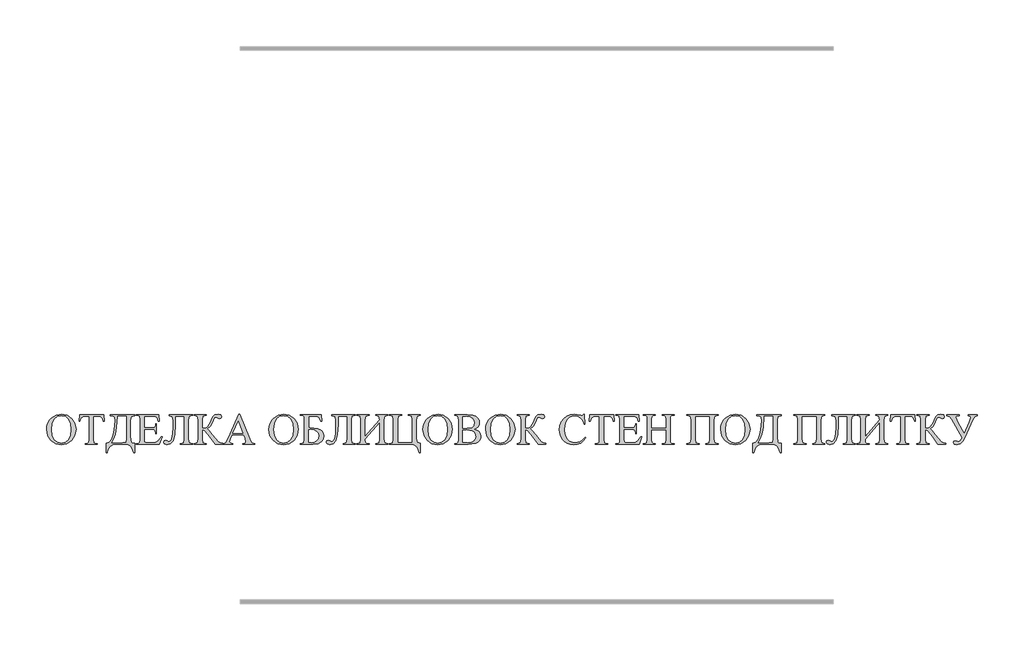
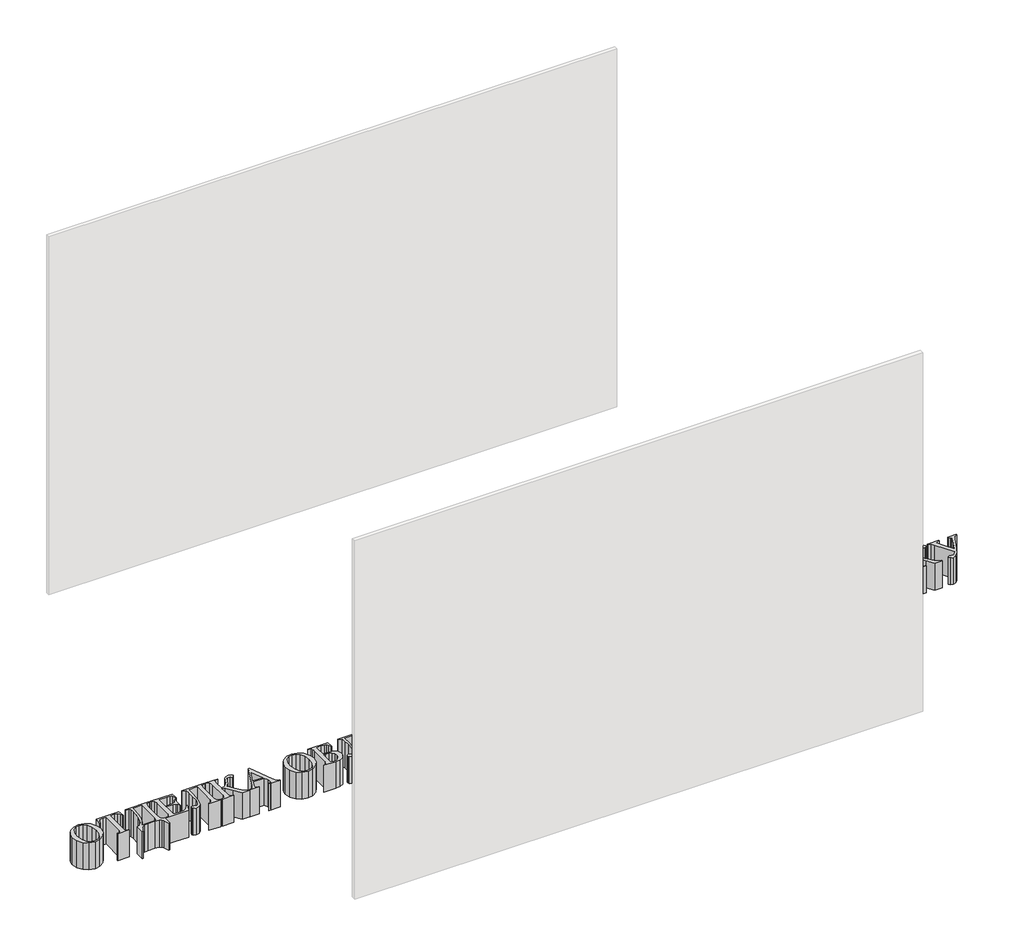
# One storey, part 12 of 17: 1 proxy.
"""IFC4 building model written with IfcOpenShell, lengths in millimetres."""

from ifc_helpers import new_model, si_unit, origin, origin_with_axes, place, context, project, spatial, polyline, outline, extrude, element, save

model = new_model("IFC4")

# Units and contexts
model_context = context("Model", 3, world=origin())
ifc_project = project(units=[si_unit("LENGTHUNIT", "METRE", prefix="MILLI")], contexts=[model_context])

# Site, building, storey
site = spatial("IfcSite", under=ifc_project)
building = spatial("IfcBuilding", under=site)
storey = spatial("IfcBuildingStorey", under=building, Name="Уровень 1", Elevation=0.0)

# Proxy
placement = place(None, origin())
element("IfcBuildingElementProxy", 1, Name="SG_Текст 2", ObjectType="SG_Текст 2", at=placement, inside=storey, context=model_context, shape_type="SweptSolid", body=[
    extrude(outline(polyline([(-694.4542029, 15019.3850863), (-666.748358, 15013.9243699), (-643.0048009, 14997.5422205), (-626.682991, 14972.994138), (-621.2423877, 14943.0356218), (-626.7232173, 14912.2273257), (-643.165706, 14887.1412168), (-667.3919784, 14870.4724553), (-696.2241589, 14864.9162014), (-725.2021597, 14870.3366916), (-749.1418199, 14886.5981621), (-765.2071873, 14911.4680548), (-770.5623098, 14942.7138117), (-769.0161124, 14959.485653), (-764.3775204, 14974.6434152), (-756.6465337, 14988.1870981), (-745.8231524, 15000.116702), (-722.2405004, 15014.5679902), (-694.4542029, 15019.3850863)]), holes=[polyline([(-696.5861954, 15011.6616421), (-715.0299411, 15007.9809382), (-729.4108334, 14996.9388265), (-740.9658301, 14974.3417181), (-744.8174956, 14943.2367532), (-740.8250381, 14911.1965275), (-728.8476656, 14887.4831401), (-714.6176218, 14876.3505193), (-696.4655165, 14872.6396457), (-676.8552089, 14876.7024992), (-660.9859445, 14888.8910596), (-650.4868875, 14909.8388908), (-646.9872019, 14940.1795565), (-650.8388674, 14973.3260047), (-662.3938641, 14996.8181476), (-677.1166797, 15007.9507685), (-696.5861954, 15011.6616421)])]), origin_with_axes(), (0.0, 0.0, 1.0), 150.0),
    extrude(outline(polyline([(-482.2203913, 15016.8106049), (-479.6459099, 14983.3423465), (-483.8294422, 14983.3423465), (-487.2486753, 14996.6170163), (-496.6012836, 15006.0500771), (-512.028059, 15009.0871606), (-533.7100196, 15009.0871606), (-533.7100196, 14893.235497), (-530.813728, 14874.9727695), (-518.1826786, 14870.0651643), (-513.1141683, 14870.0651643), (-513.1141683, 14867.4906828), (-574.9017223, 14867.4906828), (-574.9017223, 14870.0651643), (-569.7527594, 14870.0651643), (-561.8784667, 14871.583706), (-556.679221, 14876.1393313), (-554.3058709, 14893.235497), (-554.3058709, 15009.0871606), (-572.1663357, 15009.0871606), (-586.9696039, 15007.5585623), (-596.744588, 14999.4931947), (-601.5717407, 14983.3423465), (-605.7954992, 14983.3423465), (-603.2210178, 15016.8106049), (-482.2203913, 15016.8106049)])), origin_with_axes(), (0.0, 0.0, 1.0), 150.0),
    extrude(outline(polyline([(-448.7521329, 15016.8106049), (-325.1770251, 15016.8106049), (-325.1770251, 15011.6616421), (-342.0921725, 15007.2769784), (-345.7728764, 14988.6924407), (-345.7728764, 14906.4699405), (-343.0173767, 14876.9840831), (-337.179539, 14872.7603245), (-325.1770251, 14871.352405), (-325.1770251, 14823.7244988), (-330.3259879, 14823.7244988), (-340.6038004, 14850.4950829), (-348.1763961, 14858.9677414), (-356.6943092, 14864.0714497), (-378.235478, 14867.4906828), (-415.0827432, 14867.4906828), (-436.0506875, 14864.04128), (-450.6025415, 14853.6930715), (-459.6735658, 14839.3021227), (-464.1990214, 14823.7244988), (-469.3479843, 14823.7244988), (-469.3479843, 14871.352405), (-453.9966332, 14877.3964023), (-441.813101, 14892.4711978), (-432.837614, 14914.2939504), (-427.1103986, 14940.5818193), (-423.0073188, 14987.3649737), (-425.8633841, 15003.4554825), (-432.641511, 15009.9117992), (-448.7521329, 15011.6616421), (-448.7521329, 15016.8106049)]), holes=[polyline([(-410.1349117, 15009.0871606), (-414.0971995, 14953.1676141), (-420.5132899, 14916.8684318), (-429.4636355, 14893.2103556), (-441.0286887, 14875.2141271), (-386.6427688, 14875.2141271), (-369.2449061, 14877.8087216), (-366.3687277, 14894.7238691), (-366.3687277, 15009.0871606), (-410.1349117, 15009.0871606)])]), origin_with_axes(), (0.0, 0.0, 1.0), 150.0),
    extrude(outline(polyline([(-276.2618782, 15009.0871606), (-276.2618782, 14949.8740881), (-240.2191384, 14949.8740881), (-223.3643304, 14953.5346789), (-218.949497, 14960.1820703), (-217.0488056, 14970.4699394), (-214.4743242, 14970.4699394), (-214.4743242, 14921.5547925), (-217.0488056, 14921.5547925), (-220.1060023, 14934.5076522), (-226.5019796, 14940.1192171), (-240.2191384, 14942.1506439), (-276.2618782, 14942.1506439), (-276.2618782, 14892.1896139), (-275.3366739, 14879.9608272), (-272.098459, 14876.5013678), (-263.3492448, 14875.2141271), (-236.7999052, 14875.2141271), (-217.5114078, 14877.0645356), (-205.9463545, 14884.3857171), (-191.3039915, 14906.1079041), (-186.1550287, 14906.1079041), (-199.7515086, 14867.4906828), (-317.4535808, 14867.4906828), (-317.4535808, 14870.0651643), (-312.3448443, 14870.0651643), (-302.6905389, 14872.7200982), (-298.0846308, 14878.2109844), (-296.8577295, 14893.235497), (-296.8577295, 14991.0657907), (-299.6333423, 15009.5698759), (-312.3448443, 15014.2361235), (-317.4535808, 15014.2361235), (-317.4535808, 15016.8106049), (-201.6019172, 15016.8106049), (-199.0274357, 14983.3423465), (-204.1763986, 14983.3423465), (-209.4460402, 15000.3178333), (-218.0142362, 15007.3574309), (-234.0242925, 15009.0871606), (-276.2618782, 15009.0871606)])), origin_with_axes(), (0.0, 0.0, 1.0), 150.0),
    extrude(outline(polyline([(-72.8778464, 15009.0871606), (-119.2185119, 15009.0871606), (-119.2185119, 14966.8898012), (-122.0041812, 14914.2185262), (-130.3611893, 14883.9633413), (-143.6157459, 14869.6779864), (-161.0940612, 14864.9162014), (-173.926242, 14868.8986024), (-178.4315844, 14878.150645), (-175.5352928, 14885.1299032), (-168.4956952, 14888.0865342), (-160.5711196, 14884.4259434), (-151.5202084, 14880.3630899), (-142.6855134, 14884.3605757), (-135.650944, 14896.3530331), (-131.0500642, 14919.4982244), (-129.5164376, 14956.953912), (-129.5164376, 14988.4108568), (-133.1971414, 15007.2367521), (-150.1122889, 15011.6616421), (-150.1122889, 15016.8106049), (-31.6861438, 15016.8106049), (-31.6861438, 15014.2361235), (-48.6012912, 15009.8313467), (-52.2819951, 14991.0657907), (-52.2819951, 14893.235497), (-48.6012912, 14874.4699411), (-31.6861438, 14870.0651643), (-31.6861438, 14867.4906828), (-93.4736977, 14867.4906828), (-93.4736977, 14870.0651643), (-76.5585503, 14874.4699411), (-72.8778464, 14893.235497), (-72.8778464, 15009.0871606)])), origin_with_axes(), (0.0, 0.0, 1.0), 150.0),
    extrude(outline(polyline([(121.4150478, 14871.5937626), (121.4150478, 14867.4906828), (82.4357901, 14867.4906828), (55.6450929, 14905.3234918), (30.7450305, 14936.2977213), (17.2290031, 14939.5761624), (17.2290031, 14893.235497), (20.8493676, 14874.4699411), (37.8248544, 14870.0651643), (37.8248544, 14867.4906828), (-23.9626996, 14867.4906828), (-23.9626996, 14870.0651643), (-7.0877784, 14874.4297148), (-3.3668482, 14893.235497), (-3.3668482, 14991.0657907), (-7.0475521, 15009.8313467), (-23.9626996, 15014.2361235), (-23.9626996, 15016.8106049), (37.8248544, 15016.8106049), (37.8248544, 15014.2361235), (20.8493676, 15009.8313467), (17.2290031, 14991.0657907), (17.2290031, 14947.2996067), (34.1039242, 14948.9287707), (44.6432075, 14955.8476895), (53.9153632, 14967.4931953), (62.6846905, 14988.0085941), (70.8908501, 15006.633358), (81.1083232, 15015.6239299), (97.8424524, 15019.3850863), (110.7550857, 15016.2876633), (115.0592968, 15006.9953945), (111.6601768, 14999.4328553), (103.8763932, 14996.2147536), (93.3773362, 15000.277607), (84.3666512, 15003.9381978), (78.2120316, 15000.1971545), (70.0460983, 14981.1299015), (57.8575379, 14957.7483809), (42.6922333, 14944.8055778), (53.3924217, 14936.0161374), (69.3220254, 14916.2449246), (98.4056202, 14880.6849001), (108.8644509, 14874.0073389), (121.4150478, 14871.5937626)])), origin_with_axes(), (0.0, 0.0, 1.0), 150.0),
    extrude(outline(polyline([(226.6872019, 14916.4058297), (168.4395599, 14916.4058297), (158.8254809, 14894.0400224), (155.0844376, 14880.1217323), (158.3427656, 14873.6855287), (172.4219608, 14870.0651643), (172.4219608, 14867.4906828), (124.9549598, 14867.4906828), (124.9549598, 14870.0651643), (137.1032939, 14874.7314118), (149.6136646, 14898.1028759), (201.9882708, 15019.3850863), (207.4992701, 15019.3850863), (256.6557746, 14896.1317886), (268.1202622, 14875.4152584), (282.440815, 14870.0651643), (282.440815, 14867.4906828), (223.4288739, 14867.4906828), (223.4288739, 14870.0651643), (235.5168686, 14873.3838317), (238.674631, 14880.2826374), (234.2497411, 14897.4190293), (226.6872019, 14916.4058297)]), holes=[polyline([(223.5897789, 14924.129274), (198.7299428, 14984.750266), (171.7783405, 14924.129274), (223.5897789, 14924.129274)])]), origin_with_axes(), (0.0, 0.0, 1.0), 150.0),
    extrude(outline(polyline([(430.5941752, 15019.3850863), (458.3000201, 15013.9243699), (482.0435772, 14997.5422205), (498.3653871, 14972.994138), (503.8059904, 14943.0356218), (498.3251608, 14912.2273257), (481.8826721, 14887.1412168), (457.6563997, 14870.4724553), (428.8242192, 14864.9162014), (399.8462184, 14870.3366916), (375.9065583, 14886.5981621), (359.8411908, 14911.4680548), (354.4860684, 14942.7138117), (356.0322657, 14959.485653), (360.6708577, 14974.6434152), (368.4018444, 14988.1870981), (379.2252257, 15000.116702), (402.8078777, 15014.5679902), (430.5941752, 15019.3850863)]), holes=[polyline([(428.4621828, 15011.6616421), (410.018437, 15007.9809382), (395.6375447, 14996.9388265), (384.0825481, 14974.3417181), (380.2308825, 14943.2367532), (384.22334, 14911.1965275), (396.2007125, 14887.4831401), (410.4307563, 14876.3505193), (428.5828616, 14872.6396457), (448.1931692, 14876.7024992), (464.0624336, 14888.8910596), (474.5614906, 14909.8388908), (478.0611763, 14940.1795565), (474.2095107, 14973.3260047), (462.654514, 14996.8181476), (447.9316985, 15007.9507685), (428.4621828, 15011.6616421)])]), origin_with_axes(), (0.0, 0.0, 1.0), 150.0),
    extrude(outline(polyline([(620.2208219, 15016.8106049), (622.2321355, 14983.3423465), (617.0831726, 14983.3423465), (612.6331413, 14996.9941376), (606.2824186, 15004.561705), (596.1403697, 15007.9557967), (580.3163599, 15009.0871606), (555.2956187, 15009.0871606), (555.2956187, 14949.8740881), (561.4100121, 14949.8740881), (602.7223935, 14946.3945156), (614.6947377, 14941.320977), (624.2233359, 14933.0595064), (630.4533798, 14922.218526), (632.5300611, 14909.4064584), (629.4376665, 14893.7332971), (620.1604825, 14880.1016191), (603.3107027, 14870.6434169), (577.5005209, 14867.4906828), (514.1039161, 14867.4906828), (514.1039161, 14870.0651643), (531.0190635, 14874.4699411), (534.6997674, 14893.235497), (534.6997674, 14991.0657907), (533.0706034, 15006.4121135), (527.7607354, 15012.0236785), (514.1039161, 15014.2361235), (514.1039161, 15016.8106049), (620.2208219, 15016.8106049)]), holes=[polyline([(555.2956187, 14876.7829517), (570.6620546, 14875.2141271), (583.8009608, 14877.4869115), (595.6224565, 14884.3052646), (603.9945494, 14895.1361883), (606.785247, 14909.4466846), (603.8688423, 14923.9432275), (595.1196281, 14934.1255026), (581.8851846, 14940.1443585), (565.5130918, 14942.1506439), (555.2956187, 14941.2656659), (555.2956187, 14876.7829517)])]), origin_with_axes(), (0.0, 0.0, 1.0), 150.0),
    extrude(outline(polyline([(750.9562062, 15009.0871606), (704.6155407, 15009.0871606), (704.6155407, 14966.8898012), (701.8298714, 14914.2185262), (693.4728634, 14883.9633413), (680.2183067, 14869.6779864), (662.7399915, 14864.9162014), (649.9078107, 14868.8986024), (645.4024682, 14878.150645), (648.2987598, 14885.1299032), (655.3383574, 14888.0865342), (663.262933, 14884.4259434), (672.3138442, 14880.3630899), (681.1485392, 14884.3605757), (688.1831086, 14896.3530331), (692.7839884, 14919.4982244), (694.3176151, 14956.953912), (694.3176151, 14988.4108568), (690.6369112, 15007.2367521), (673.7217638, 15011.6616421), (673.7217638, 15016.8106049), (792.1479088, 15016.8106049), (792.1479088, 15014.2361235), (775.2327614, 15009.8313467), (771.5520575, 14991.0657907), (771.5520575, 14893.235497), (775.2327614, 14874.4699411), (792.1479088, 14870.0651643), (792.1479088, 14867.4906828), (730.3603549, 14867.4906828), (730.3603549, 14870.0651643), (747.2755023, 14874.4699411), (750.9562062, 14893.235497), (750.9562062, 15009.0871606)])), origin_with_axes(), (0.0, 0.0, 1.0), 150.0),
    extrude(outline(polyline([(915.7230167, 14991.0657907), (911.6400501, 15010.2134963), (895.1271654, 15014.2361235), (895.1271654, 15016.8106049), (956.9147193, 15016.8106049), (956.9147193, 15014.2361235), (939.9995719, 15009.8313467), (936.318868, 14991.0657907), (936.318868, 14893.235497), (939.9995719, 14874.4699411), (956.9147193, 14870.0651643), (956.9147193, 14867.4906828), (895.1271654, 14867.4906828), (895.1271654, 14870.0651643), (912.1026522, 14874.5302805), (915.7230167, 14893.235497), (915.7230167, 14978.1933837), (841.0630557, 14893.235497), (842.2698439, 14878.4121157), (847.3785804, 14872.4787406), (861.658907, 14870.0651643), (861.658907, 14867.4906828), (799.8713531, 14867.4906828), (799.8713531, 14870.0651643), (816.7865005, 14874.4699411), (820.4672044, 14893.235497), (820.4672044, 14991.0657907), (816.7865005, 15009.8313467), (799.8713531, 15014.2361235), (799.8713531, 15016.8106049), (861.658907, 15016.8106049), (861.658907, 15014.2361235), (844.7236465, 15009.8313467), (841.0630557, 14991.0657907), (841.0630557, 14906.1079041), (915.7230167, 14991.0657907)])), origin_with_axes(), (0.0, 0.0, 1.0), 150.0),
    extrude(outline(polyline([(1121.6815299, 14872.6396457), (1121.6815299, 14823.7244988), (1116.532567, 14823.7244988), (1111.3634911, 14840.0060824), (1102.0511091, 14854.2562393), (1087.5394814, 14864.182072), (1066.7726685, 14867.4906828), (964.6381636, 14867.4906828), (964.6381636, 14870.0651643), (981.553311, 14874.4699411), (985.2340149, 14893.235497), (985.2340149, 14991.0657907), (981.553311, 15009.8313467), (964.6381636, 15014.2361235), (964.6381636, 15016.8106049), (1026.4257175, 15016.8106049), (1026.4257175, 15014.2361235), (1009.5105701, 15009.8313467), (1005.8298662, 14991.0657907), (1005.8298662, 14889.8967164), (1007.1372201, 14877.2254407), (1021.4778861, 14875.2141271), (1062.9109463, 14875.2141271), (1079.3031522, 14877.4064589), (1080.4898272, 14891.9884826), (1080.4898272, 14991.0657907), (1076.8493496, 15009.8313467), (1059.8939759, 15014.2361235), (1059.8939759, 15016.8106049), (1121.6815299, 15016.8106049), (1121.6815299, 15014.2361235), (1104.7663825, 15009.8313467), (1101.0856786, 14991.0657907), (1101.0856786, 14895.4881682), (1104.545138, 14876.4008021), (1121.6815299, 14872.6396457)])), origin_with_axes(), (0.0, 0.0, 1.0), 150.0),
    extrude(outline(polyline([(1210.6620438, 15019.3850863), (1238.3678887, 15013.9243699), (1262.1114458, 14997.5422205), (1278.4332557, 14972.994138), (1283.873859, 14943.0356218), (1278.3930294, 14912.2273257), (1261.9505407, 14887.1412168), (1237.7242683, 14870.4724553), (1208.8920878, 14864.9162014), (1179.914087, 14870.3366916), (1155.9744268, 14886.5981621), (1139.9090594, 14911.4680548), (1134.5539369, 14942.7138117), (1136.1001343, 14959.485653), (1140.7387263, 14974.6434152), (1148.4697129, 14988.1870981), (1159.2930943, 15000.116702), (1182.8757463, 15014.5679902), (1210.6620438, 15019.3850863)]), holes=[polyline([(1208.5300513, 15011.6616421), (1190.0863056, 15007.9809382), (1175.7054133, 14996.9388265), (1164.1504166, 14974.3417181), (1160.2987511, 14943.2367532), (1164.2912086, 14911.1965275), (1176.2685811, 14887.4831401), (1190.4986249, 14876.3505193), (1208.6507302, 14872.6396457), (1228.2610378, 14876.7024992), (1244.1303021, 14888.8910596), (1254.6293592, 14909.8388908), (1258.1290448, 14940.1795565), (1254.2773793, 14973.3260047), (1242.7223826, 14996.8181476), (1227.999567, 15007.9507685), (1208.5300513, 15011.6616421)])]), origin_with_axes(), (0.0, 0.0, 1.0), 150.0),
    extrude(outline(polyline([(1393.7318081, 14942.8344905), (1407.4489669, 14938.5906188), (1417.223951, 14932.3756597), (1425.3396014, 14921.2430389), (1428.0448182, 14907.87786), (1426.2899471, 14897.1223605), (1421.0253337, 14886.8194066), (1412.7035237, 14878.1053904), (1401.7770625, 14872.1167041), (1364.4068557, 14867.4906828), (1294.1717846, 14867.4906828), (1294.1717846, 14870.0651643), (1299.5218788, 14870.0651643), (1307.1950402, 14871.6038192), (1312.3540596, 14876.2197839), (1314.767636, 14893.235497), (1314.767636, 14991.0657907), (1311.7104393, 15009.2078395), (1299.5218788, 15014.2361235), (1294.1717846, 15014.2361235), (1294.1717846, 15016.8106049), (1358.0511047, 15016.8106049), (1386.7324367, 15014.1556709), (1401.1636119, 15008.5893605), (1411.7129517, 14999.9356837), (1418.1692684, 14988.9689963), (1420.3213739, 14976.463654), (1418.6368988, 14965.7131827), (1413.5834734, 14956.1493866), (1405.2516068, 14948.3354332), (1393.7318081, 14942.8344905)]), holes=[polyline([(1335.3634873, 14878.150645), (1360.9071701, 14875.2141271), (1378.7022672, 14877.4316003), (1391.7003813, 14884.0840201), (1399.6500984, 14893.9947679), (1402.300004, 14905.9872252), (1397.4527383, 14922.5001099), (1391.1171004, 14929.600047), (1381.8047184, 14935.0104806), (1355.0743606, 14939.5761624), (1343.2679497, 14939.354918), (1335.3634873, 14938.6107319), (1335.3634873, 14878.150645)]), polyline([(1335.3634873, 14948.8684313), (1344.7764349, 14947.7018694), (1356.4018276, 14947.2996067), (1380.8795142, 14950.7992924), (1387.7079238, 14955.2241823), (1391.8210602, 14961.4994807), (1394.5765598, 14977.2681794), (1392.012135, 14989.4919378), (1384.3188604, 14999.7747786), (1371.7079241, 15006.7590651), (1354.390514, 15009.0871606), (1335.3634873, 15006.633358), (1335.3634873, 14948.8684313)])]), origin_with_axes(), (0.0, 0.0, 1.0), 150.0),
    extrude(outline(polyline([(1527.3232577, 15019.3850863), (1555.0291026, 15013.9243699), (1578.7726598, 14997.5422205), (1595.0944697, 14972.994138), (1600.535073, 14943.0356218), (1595.0542434, 14912.2273257), (1578.6117547, 14887.1412168), (1554.3854823, 14870.4724553), (1525.5533018, 14864.9162014), (1496.575301, 14870.3366916), (1472.6356408, 14886.5981621), (1456.5702734, 14911.4680548), (1451.2151509, 14942.7138117), (1452.7613483, 14959.485653), (1457.3999403, 14974.6434152), (1465.1309269, 14988.1870981), (1475.9543083, 15000.116702), (1499.5369603, 15014.5679902), (1527.3232577, 15019.3850863)]), holes=[polyline([(1525.1912653, 15011.6616421), (1506.7475196, 15007.9809382), (1492.3666273, 14996.9388265), (1480.8116306, 14974.3417181), (1476.9599651, 14943.2367532), (1480.9524226, 14911.1965275), (1492.9297951, 14887.4831401), (1507.1598388, 14876.3505193), (1525.3119441, 14872.6396457), (1544.9222518, 14876.7024992), (1560.7915161, 14888.8910596), (1571.2905731, 14909.8388908), (1574.7902588, 14940.1795565), (1570.9385933, 14973.3260047), (1559.3835966, 14996.8181476), (1544.660781, 15007.9507685), (1525.1912653, 15011.6616421)])]), origin_with_axes(), (0.0, 0.0, 1.0), 150.0),
    extrude(outline(polyline([(1756.210746, 14871.5937626), (1756.210746, 14867.4906828), (1717.2314883, 14867.4906828), (1690.4407911, 14905.3234918), (1665.5407287, 14936.2977213), (1652.0247012, 14939.5761624), (1652.0247012, 14893.235497), (1655.6450657, 14874.4699411), (1672.6205526, 14870.0651643), (1672.6205526, 14867.4906828), (1610.8329986, 14867.4906828), (1610.8329986, 14870.0651643), (1627.7079198, 14874.4297148), (1631.4288499, 14893.235497), (1631.4288499, 14991.0657907), (1627.748146, 15009.8313467), (1610.8329986, 15014.2361235), (1610.8329986, 15016.8106049), (1672.6205526, 15016.8106049), (1672.6205526, 15014.2361235), (1655.6450657, 15009.8313467), (1652.0247012, 14991.0657907), (1652.0247012, 14947.2996067), (1668.8996224, 14948.9287707), (1679.4389057, 14955.8476895), (1688.7110614, 14967.4931953), (1697.4803887, 14988.0085941), (1705.6865482, 15006.633358), (1715.9040213, 15015.6239299), (1732.6381505, 15019.3850863), (1745.5507839, 15016.2876633), (1749.854995, 15006.9953945), (1746.455875, 14999.4328553), (1738.6720914, 14996.2147536), (1728.1730343, 15000.277607), (1719.1623494, 15003.9381978), (1713.0077298, 15000.1971545), (1704.8417965, 14981.1299015), (1692.6532361, 14957.7483809), (1677.4879315, 14944.8055778), (1688.1881199, 14936.0161374), (1704.1177236, 14916.2449246), (1733.2013183, 14880.6849001), (1743.6601491, 14874.0073389), (1756.210746, 14871.5937626)])), origin_with_axes(), (0.0, 0.0, 1.0), 150.0),
    extrude(outline(polyline([(1950.6645453, 15019.3850863), (1953.2390267, 14967.895458), (1950.6645453, 14967.895458), (1942.5539232, 14987.9231132), (1931.5771792, 15001.4240558), (1917.9354447, 15009.1022455), (1901.829851, 15011.6616421), (1887.966872, 15009.8062053), (1875.5017559, 15004.2398949), (1864.9926423, 14994.6057027), (1856.9976707, 14980.5466206), (1851.9442453, 14962.2889213), (1850.2597702, 14940.0588777), (1851.8637928, 14921.4341137), (1856.6758606, 14905.4642837), (1864.7160867, 14892.5315372), (1876.0045843, 14883.0180239), (1889.8223088, 14877.1651013), (1905.4502155, 14875.2141271), (1930.81288, 14880.9061446), (1942.3527919, 14889.4089729), (1954.9687564, 14903.5334226), (1958.3879896, 14900.9589412), (1946.2748534, 14884.7628384), (1932.3012521, 14873.5849631), (1915.9945271, 14867.0833918), (1896.8820195, 14864.9162014), (1879.4414164, 14866.6182756), (1864.0875512, 14871.724498), (1850.8204238, 14880.2348687), (1839.6400343, 14892.1493876), (1828.2962256, 14914.2134979), (1824.514956, 14939.8577464), (1827.0140132, 14961.0821332), (1834.5111846, 14980.5063943), (1846.3930198, 14996.9438547), (1862.0460679, 15009.2078395), (1880.3993045, 15016.8407746), (1900.3817052, 15019.3850863), (1932.2409127, 15013.4718243), (1938.8380213, 15011.6616421), (1944.0272104, 15013.2304667), (1948.0900639, 15019.3850863), (1950.6645453, 15019.3850863)])), origin_with_axes(), (0.0, 0.0, 1.0), 150.0),
    extrude(outline(polyline([(2099.9844674, 15016.8106049), (2102.5589488, 14983.3423465), (2098.3754165, 14983.3423465), (2094.9561833, 14996.6170163), (2085.6035751, 15006.0500771), (2070.1767997, 15009.0871606), (2048.4948391, 15009.0871606), (2048.4948391, 14893.235497), (2051.3911307, 14874.9727695), (2064.0221801, 14870.0651643), (2069.0906904, 14870.0651643), (2069.0906904, 14867.4906828), (2007.3031364, 14867.4906828), (2007.3031364, 14870.0651643), (2012.4520993, 14870.0651643), (2020.326392, 14871.583706), (2025.5256377, 14876.1393313), (2027.8989878, 14893.235497), (2027.8989878, 15009.0871606), (2010.0385229, 15009.0871606), (1995.2352548, 15007.5585623), (1985.4602707, 14999.4931947), (1980.633118, 14983.3423465), (1976.4093595, 14983.3423465), (1978.9838409, 15016.8106049), (2099.9844674, 15016.8106049)])), origin_with_axes(), (0.0, 0.0, 1.0), 150.0),
    extrude(outline(polyline([(2151.4740957, 15009.0871606), (2151.4740957, 14949.8740881), (2187.5168355, 14949.8740881), (2204.3716435, 14953.5346789), (2208.7864768, 14960.1820703), (2210.6871682, 14970.4699394), (2213.2616496, 14970.4699394), (2213.2616496, 14921.5547925), (2210.6871682, 14921.5547925), (2207.6299715, 14934.5076522), (2201.2339942, 14940.1192171), (2187.5168355, 14942.1506439), (2151.4740957, 14942.1506439), (2151.4740957, 14892.1896139), (2152.3992999, 14879.9608272), (2155.6375148, 14876.5013678), (2164.386729, 14875.2141271), (2190.9360686, 14875.2141271), (2210.2245661, 14877.0645356), (2221.7896193, 14884.3857171), (2236.4319823, 14906.1079041), (2241.5809452, 14906.1079041), (2227.9844652, 14867.4906828), (2110.282393, 14867.4906828), (2110.282393, 14870.0651643), (2115.3911296, 14870.0651643), (2125.0454349, 14872.7200982), (2129.651343, 14878.2109844), (2130.8782443, 14893.235497), (2130.8782443, 14991.0657907), (2128.1026316, 15009.5698759), (2115.3911296, 15014.2361235), (2110.282393, 15014.2361235), (2110.282393, 15016.8106049), (2226.1340567, 15016.8106049), (2228.7085381, 14983.3423465), (2223.5595753, 14983.3423465), (2218.2899336, 15000.3178333), (2209.7217377, 15007.3574309), (2193.7116814, 15009.0871606), (2151.4740957, 15009.0871606)])), origin_with_axes(), (0.0, 0.0, 1.0), 150.0),
    extrude(outline(polyline([(2290.496092, 14947.2996067), (2365.1560531, 14947.2996067), (2365.1560531, 14991.0657907), (2363.7883598, 15006.633358), (2359.3232436, 15011.500737), (2349.6689383, 15014.2361235), (2344.5602017, 15014.2361235), (2344.5602017, 15016.8106049), (2406.3477557, 15016.8106049), (2406.3477557, 15014.2361235), (2401.2390191, 15014.2361235), (2391.5847138, 15011.6214158), (2386.9788057, 15006.1104165), (2385.7519044, 14991.0657907), (2385.7519044, 14893.235497), (2387.1195976, 14877.708156), (2391.5042613, 14872.8005508), (2401.2390191, 14870.0651643), (2406.3477557, 14870.0651643), (2406.3477557, 14867.4906828), (2344.5602017, 14867.4906828), (2344.5602017, 14870.0651643), (2349.6689383, 14870.0651643), (2357.2817603, 14871.4630272), (2362.5011191, 14875.6566161), (2365.1560531, 14893.235497), (2365.1560531, 14939.5761624), (2290.496092, 14939.5761624), (2290.496092, 14893.235497), (2291.8637853, 14877.708156), (2296.2886752, 14872.8005508), (2305.9027542, 14870.0651643), (2311.0919433, 14870.0651643), (2311.0919433, 14867.4906828), (2249.3043894, 14867.4906828), (2249.3043894, 14870.0651643), (2254.413126, 14870.0651643), (2262.0963439, 14871.4630272), (2267.3659856, 14875.6566161), (2269.9002407, 14893.235497), (2269.9002407, 14991.0657907), (2268.5325475, 15006.633358), (2264.1478838, 15011.500737), (2254.413126, 15014.2361235), (2249.3043894, 15014.2361235), (2249.3043894, 15016.8106049), (2311.0919433, 15016.8106049), (2311.0919433, 15014.2361235), (2305.9027542, 15014.2361235), (2296.2886752, 15011.6214158), (2291.7632196, 15006.1104165), (2290.496092, 14991.0657907), (2290.496092, 14947.2996067)])), origin_with_axes(), (0.0, 0.0, 1.0), 150.0),
    extrude(outline(polyline([(2586.5614547, 15009.0871606), (2511.9014937, 15009.0871606), (2511.9014937, 14893.235497), (2515.5218582, 14874.4699411), (2532.497345, 14870.0651643), (2532.497345, 14867.4906828), (2470.709791, 14867.4906828), (2470.709791, 14870.0651643), (2487.6249385, 14874.4699411), (2491.3056424, 14893.235497), (2491.3056424, 14991.0657907), (2487.6249385, 15009.8313467), (2470.709791, 15014.2361235), (2470.709791, 15016.8106049), (2627.7531573, 15016.8106049), (2627.7531573, 15014.2361235), (2610.8380099, 15009.8313467), (2607.157306, 14991.0657907), (2607.157306, 14893.235497), (2610.8380099, 14874.4699411), (2627.7531573, 14870.0651643), (2627.7531573, 14867.4906828), (2565.9656034, 14867.4906828), (2565.9656034, 14870.0651643), (2582.8606377, 14874.4297148), (2586.5614547, 14893.235497), (2586.5614547, 15009.0871606)])), origin_with_axes(), (0.0, 0.0, 1.0), 150.0),
    extrude(outline(polyline([(2716.7336712, 15019.3850863), (2744.4395161, 15013.9243699), (2768.1830732, 14997.5422205), (2784.5048831, 14972.994138), (2789.9454864, 14943.0356218), (2784.4646569, 14912.2273257), (2768.0221681, 14887.1412168), (2743.7958958, 14870.4724553), (2714.9637152, 14864.9162014), (2685.9857145, 14870.3366916), (2662.0460543, 14886.5981621), (2645.9806869, 14911.4680548), (2640.6255644, 14942.7138117), (2642.1717617, 14959.485653), (2646.8103537, 14974.6434152), (2654.5413404, 14988.1870981), (2665.3647217, 15000.116702), (2688.9473738, 15014.5679902), (2716.7336712, 15019.3850863)]), holes=[polyline([(2714.6016788, 15011.6616421), (2696.157933, 15007.9809382), (2681.7770408, 14996.9388265), (2670.2220441, 14974.3417181), (2666.3703785, 14943.2367532), (2670.362836, 14911.1965275), (2682.3402086, 14887.4831401), (2696.5702523, 14876.3505193), (2714.7223576, 14872.6396457), (2734.3326653, 14876.7024992), (2750.2019296, 14888.8910596), (2760.7009866, 14909.8388908), (2764.2006723, 14940.1795565), (2760.3490067, 14973.3260047), (2748.7940101, 14996.8181476), (2734.0711945, 15007.9507685), (2714.6016788, 15011.6616421)])]), origin_with_axes(), (0.0, 0.0, 1.0), 150.0),
    extrude(outline(polyline([(2823.4137448, 15016.8106049), (2946.9888527, 15016.8106049), (2946.9888527, 15011.6616421), (2930.0737053, 15007.2769784), (2926.3930014, 14988.6924407), (2926.3930014, 14906.4699405), (2929.148501, 14876.9840831), (2934.9863388, 14872.7603245), (2946.9888527, 14871.352405), (2946.9888527, 14823.7244988), (2941.8398899, 14823.7244988), (2931.5620774, 14850.4950829), (2923.9894816, 14858.9677414), (2915.4715685, 14864.0714497), (2893.9303998, 14867.4906828), (2857.0831346, 14867.4906828), (2836.1151902, 14864.04128), (2821.5633363, 14853.6930715), (2812.4923119, 14839.3021227), (2807.9668563, 14823.7244988), (2802.8178935, 14823.7244988), (2802.8178935, 14871.352405), (2818.1692446, 14877.3964023), (2830.3527768, 14892.4711978), (2839.3282637, 14914.2939504), (2845.0554792, 14940.5818193), (2849.158559, 14987.3649737), (2846.3024936, 15003.4554825), (2839.5243668, 15009.9117992), (2823.4137448, 15011.6616421), (2823.4137448, 15016.8106049)]), holes=[polyline([(2862.030966, 15009.0871606), (2858.0686782, 14953.1676141), (2851.6525878, 14916.8684318), (2842.7022423, 14893.2103556), (2831.1371891, 14875.2141271), (2885.5231089, 14875.2141271), (2902.9209716, 14877.8087216), (2905.7971501, 14894.7238691), (2905.7971501, 15009.0871606), (2862.030966, 15009.0871606)])]), origin_with_axes(), (0.0, 0.0, 1.0), 150.0),
    extrude(outline(polyline([(3127.2025517, 15009.0871606), (3052.5425907, 15009.0871606), (3052.5425907, 14893.235497), (3056.1629552, 14874.4699411), (3073.138442, 14870.0651643), (3073.138442, 14867.4906828), (3011.3508881, 14867.4906828), (3011.3508881, 14870.0651643), (3028.2660355, 14874.4699411), (3031.9467394, 14893.235497), (3031.9467394, 14991.0657907), (3028.2660355, 15009.8313467), (3011.3508881, 15014.2361235), (3011.3508881, 15016.8106049), (3168.3942544, 15016.8106049), (3168.3942544, 15014.2361235), (3151.4791069, 15009.8313467), (3147.798403, 14991.0657907), (3147.798403, 14893.235497), (3151.4791069, 14874.4699411), (3168.3942544, 14870.0651643), (3168.3942544, 14867.4906828), (3106.6067004, 14867.4906828), (3106.6067004, 14870.0651643), (3123.5017347, 14874.4297148), (3127.2025517, 14893.235497), (3127.2025517, 15009.0871606)])), origin_with_axes(), (0.0, 0.0, 1.0), 150.0),
    extrude(outline(polyline([(3281.6714366, 15009.0871606), (3235.3307711, 15009.0871606), (3235.3307711, 14966.8898012), (3232.5451018, 14914.2185262), (3224.1880938, 14883.9633413), (3210.9335371, 14869.6779864), (3193.4552219, 14864.9162014), (3180.6230411, 14868.8986024), (3176.1176986, 14878.150645), (3179.0139902, 14885.1299032), (3186.0535878, 14888.0865342), (3193.9781634, 14884.4259434), (3203.0290746, 14880.3630899), (3211.8637696, 14884.3605757), (3218.898339, 14896.3530331), (3223.4992189, 14919.4982244), (3225.0328455, 14956.953912), (3225.0328455, 14988.4108568), (3221.3521416, 15007.2367521), (3204.4369942, 15011.6616421), (3204.4369942, 15016.8106049), (3322.8631392, 15016.8106049), (3322.8631392, 15014.2361235), (3305.9479918, 15009.8313467), (3302.2672879, 14991.0657907), (3302.2672879, 14893.235497), (3305.9479918, 14874.4699411), (3322.8631392, 14870.0651643), (3322.8631392, 14867.4906828), (3261.0755853, 14867.4906828), (3261.0755853, 14870.0651643), (3277.9907327, 14874.4699411), (3281.6714366, 14893.235497), (3281.6714366, 15009.0871606)])), origin_with_axes(), (0.0, 0.0, 1.0), 150.0),
    extrude(outline(polyline([(3446.4382471, 14991.0657907), (3442.3552805, 15010.2134963), (3425.8423958, 15014.2361235), (3425.8423958, 15016.8106049), (3487.6299498, 15016.8106049), (3487.6299498, 15014.2361235), (3470.7148023, 15009.8313467), (3467.0340984, 14991.0657907), (3467.0340984, 14893.235497), (3470.7148023, 14874.4699411), (3487.6299498, 14870.0651643), (3487.6299498, 14867.4906828), (3425.8423958, 14867.4906828), (3425.8423958, 14870.0651643), (3442.8178826, 14874.5302805), (3446.4382471, 14893.235497), (3446.4382471, 14978.1933837), (3371.7782861, 14893.235497), (3372.9850743, 14878.4121157), (3378.0938108, 14872.4787406), (3392.3741374, 14870.0651643), (3392.3741374, 14867.4906828), (3330.5865835, 14867.4906828), (3330.5865835, 14870.0651643), (3347.5017309, 14874.4699411), (3351.1824348, 14893.235497), (3351.1824348, 14991.0657907), (3347.5017309, 15009.8313467), (3330.5865835, 15014.2361235), (3330.5865835, 15016.8106049), (3392.3741374, 15016.8106049), (3392.3741374, 15014.2361235), (3375.4388769, 15009.8313467), (3371.7782861, 14991.0657907), (3371.7782861, 14906.1079041), (3446.4382471, 14991.0657907)])), origin_with_axes(), (0.0, 0.0, 1.0), 150.0),
    extrude(outline(polyline([(3624.0774647, 15016.8106049), (3626.6519461, 14983.3423465), (3622.4684138, 14983.3423465), (3619.0491807, 14996.6170163), (3609.6965724, 15006.0500771), (3594.2697971, 15009.0871606), (3572.5878364, 15009.0871606), (3572.5878364, 14893.235497), (3575.484128, 14874.9727695), (3588.1151775, 14870.0651643), (3593.1836877, 14870.0651643), (3593.1836877, 14867.4906828), (3531.3961338, 14867.4906828), (3531.3961338, 14870.0651643), (3536.5450966, 14870.0651643), (3544.4193894, 14871.583706), (3549.6186351, 14876.1393313), (3551.9919851, 14893.235497), (3551.9919851, 15009.0871606), (3534.1315203, 15009.0871606), (3519.3282522, 15007.5585623), (3509.553268, 14999.4931947), (3504.7261154, 14983.3423465), (3500.5023568, 14983.3423465), (3503.0768382, 15016.8106049), (3624.0774647, 15016.8106049)])), origin_with_axes(), (0.0, 0.0, 1.0), 150.0),
    extrude(outline(polyline([(3779.7531377, 14871.5937626), (3779.7531377, 14867.4906828), (3740.7738801, 14867.4906828), (3713.9831829, 14905.3234918), (3689.0831204, 14936.2977213), (3675.567093, 14939.5761624), (3675.567093, 14893.235497), (3679.1874575, 14874.4699411), (3696.1629443, 14870.0651643), (3696.1629443, 14867.4906828), (3634.3753904, 14867.4906828), (3634.3753904, 14870.0651643), (3651.2503115, 14874.4297148), (3654.9712417, 14893.235497), (3654.9712417, 14991.0657907), (3651.2905378, 15009.8313467), (3634.3753904, 15014.2361235), (3634.3753904, 15016.8106049), (3696.1629443, 15016.8106049), (3696.1629443, 15014.2361235), (3679.1874575, 15009.8313467), (3675.567093, 14991.0657907), (3675.567093, 14947.2996067), (3692.4420142, 14948.9287707), (3702.9812974, 14955.8476895), (3712.2534532, 14967.4931953), (3721.0227805, 14988.0085941), (3729.22894, 15006.633358), (3739.4464131, 15015.6239299), (3756.1805423, 15019.3850863), (3769.0931756, 15016.2876633), (3773.3973868, 15006.9953945), (3769.9982668, 14999.4328553), (3762.2144831, 14996.2147536), (3751.7154261, 15000.277607), (3742.7047411, 15003.9381978), (3736.5501215, 15000.1971545), (3728.3841883, 14981.1299015), (3716.1956278, 14957.7483809), (3701.0303232, 14944.8055778), (3711.7305116, 14936.0161374), (3727.6601154, 14916.2449246), (3756.7437101, 14880.6849001), (3767.2025409, 14874.0073389), (3779.7531377, 14871.5937626)])), origin_with_axes(), (0.0, 0.0, 1.0), 150.0),
    extrude(outline(polyline([(3786.2697938, 15016.8106049), (3848.0573478, 15016.8106049), (3848.0573478, 15011.6616421), (3834.5413203, 15009.3888577), (3830.0359779, 15003.7772927), (3841.9831807, 14978.1531574), (3875.0894026, 14921.1927561), (3899.5469761, 14978.1531574), (3907.2704203, 15001.8464317), (3904.0523185, 15008.2826352), (3894.3980132, 15011.6616421), (3894.3980132, 15016.8106049), (3940.7386787, 15016.8106049), (3940.7386787, 15011.6616421), (3926.227051, 15005.3360608), (3915.6777112, 14990.1405865), (3886.674569, 14922.3995443), (3868.3112758, 14885.6126184), (3852.8845004, 14869.9042592), (3835.5469772, 14864.9162014), (3822.4935519, 14868.0136244), (3817.1635708, 14876.4611415), (3819.8989573, 14882.9375713), (3827.3408176, 14885.5120527), (3838.3225899, 14882.3341772), (3844.7990197, 14880.3630899), (3853.9706098, 14885.2002991), (3864.1880829, 14899.7119268), (3809.7619367, 14993.2380094), (3799.303106, 15006.4523398), (3786.2697938, 15011.6616421), (3786.2697938, 15016.8106049)])), origin_with_axes(), (0.0, 0.0, 1.0), 150.0),
])

save(model, "model.ifc")
